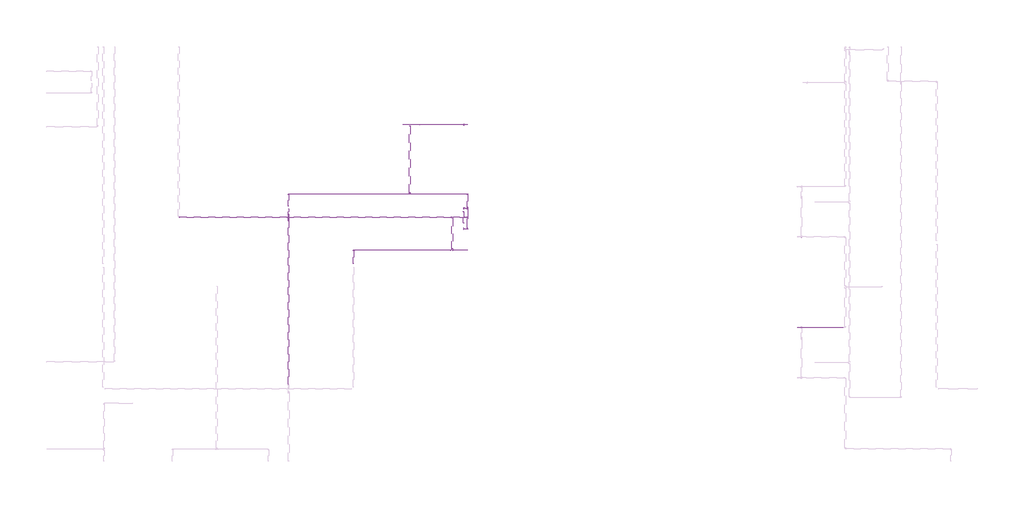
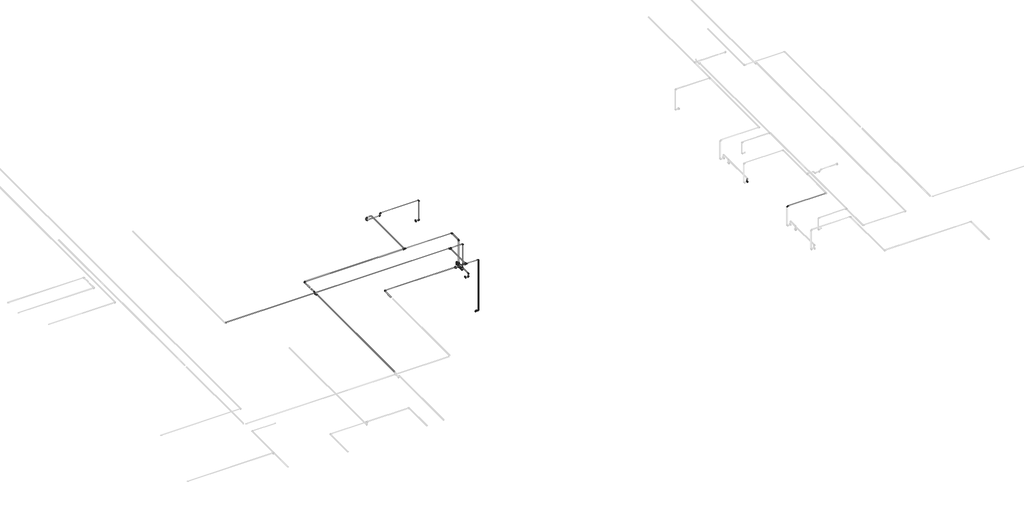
# One storey, part 4 of 40: 35 cable carrier segments, 26 cable carrier fittings, 4 electric appliances, 1 alarm.
"""IFC4 building model written with IfcOpenShell, lengths in millimetres."""

from ifc_helpers import new_model, si_unit, point, frame, frame_2d, origin, place, context, project, spatial, circle_curve, trimmed, segment, composite_curve, outline, extrude, transform, mapped, element, save
from components import alarm_4b7e8fd8, cable_carrier_fitting_69f1a801, cable_carrier_fitting_8122f9af, cable_carrier_fitting_8fd13dfc, electric_appliance_5961a143

model = new_model("IFC4")

# Units and contexts
model_context = context("Model", 3, world=origin())
ifc_project = project(units=[si_unit("LENGTHUNIT", "METRE", prefix="MILLI")], contexts=[model_context])

# Site, building, storey
site = spatial("IfcSite", under=ifc_project)
building = spatial("IfcBuilding", under=site)
storey = spatial("IfcBuildingStorey", under=building, Name="1 этаж", Elevation=0.0)

# Alarm
placement = place(None, origin())
alarm_shape = alarm_4b7e8fd8(model_context)
element("IfcAlarm", 1, ObjectType="RBZ_Оповещатель_Световой_Рубеж_ОПОП1-R3(грань) : ОПОП 1-R3 \"Выход\"", at=placement, inside=storey, context=model_context, shape_type="MappedRepresentation", body=[
    mapped(alarm_shape, transform((-25412.3240021, -5340.3629895, 2500.0), x_axis=(0.0, -1.0, 0.0), y_axis=(0.0, 0.0, 1.0), z_axis=(-1.0, 0.0, 0.0))),
])

# Cable carrier fittings
cable_carrier_fitting_shape = cable_carrier_fitting_69f1a801(model_context)
element("IfcCableCarrierFitting", 2, ObjectType="ADSK_Поворот_Минимальный размер : Неспецифицируемый", at=placement, inside=storey, context=model_context, shape_type="MappedRepresentation", body=[
    mapped(cable_carrier_fitting_shape, transform((-28274.7740021, -6192.8629895, 3187.0), x_axis=(-1.0, 0.0, 0.0), y_axis=(0.0, -1.0, 0.0), z_axis=(0.0, 0.0, 1.0))),
])
element("IfcCableCarrierFitting", 3, ObjectType="ADSK_Поворот_Минимальный размер : Неспецифицируемый", at=placement, inside=storey, context=model_context, shape_type="MappedRepresentation", body=[
    mapped(cable_carrier_fitting_shape, transform((-29965.3597128, -4737.8629895, 3187.0), x_axis=(-1.0, 0.0, 0.0), y_axis=(0.0, -1.0, 0.0), z_axis=(0.0, 0.0, 1.0))),
])
element("IfcCableCarrierFitting", 4, ObjectType="ADSK_Поворот_Минимальный размер : Неспецифицируемый", at=placement, inside=storey, context=model_context, shape_type="MappedRepresentation", body=[
    mapped(cable_carrier_fitting_shape, transform((-25315.1241965, -6192.8629895, 1500.0), x_axis=(1.0, 0.0, 0.0), y_axis=(0.0, 0.0, 1.0), z_axis=(0.0, -1.0, 0.0))),
])
element("IfcCableCarrierFitting", 5, ObjectType="ADSK_Поворот_Минимальный размер : Неспецифицируемый", at=placement, inside=storey, context=model_context, shape_type="MappedRepresentation", body=[
    mapped(cable_carrier_fitting_shape, transform((-25315.1241965, -6192.8629895, 3187.0), x_axis=(0.0, 0.0, 1.0), y_axis=(-1.0, 0.0, 0.0), z_axis=(0.0, -1.0, 0.0))),
])
element("IfcCableCarrierFitting", 6, ObjectType="ADSK_Поворот_Минимальный размер : Неспецифицируемый", at=placement, inside=storey, context=model_context, shape_type="MappedRepresentation", body=[
    mapped(cable_carrier_fitting_shape, transform((-25315.1241965, -5340.3629895, 2500.0), x_axis=(1.0, 0.0, 0.0), y_axis=(0.0, 0.0, 1.0), z_axis=(0.0, -1.0, 0.0))),
])
element("IfcCableCarrierFitting", 7, ObjectType="ADSK_Поворот_Минимальный размер : Неспецифицируемый", at=placement, inside=storey, context=model_context, shape_type="MappedRepresentation", body=[
    mapped(cable_carrier_fitting_shape, transform((-25315.1241965, -5340.3629895, 3187.0), x_axis=(0.0, 0.0, 1.0), y_axis=(-1.0, 0.0, 0.0), z_axis=(0.0, -1.0, 0.0))),
])
element("IfcCableCarrierFitting", 8, ObjectType="ADSK_Поворот_Минимальный размер : Неспецифицируемый", at=placement, inside=storey, context=model_context, shape_type="MappedRepresentation", body=[
    mapped(cable_carrier_fitting_shape, transform((-25315.1241965, -5642.8629895, 2293.0911237), x_axis=(1.0, 0.0, 0.0), y_axis=(0.0, 0.0, 1.0), z_axis=(0.0, -1.0, 0.0))),
])
element("IfcCableCarrierFitting", 9, ObjectType="ADSK_Поворот_Минимальный размер : Неспецифицируемый", at=placement, inside=storey, context=model_context, shape_type="MappedRepresentation", body=[
    mapped(cable_carrier_fitting_shape, transform((-25315.1241965, -5105.3629895, 2293.0911237), x_axis=(1.0, 0.0, 0.0), y_axis=(0.0, 0.0, 1.0), z_axis=(0.0, -1.0, 0.0))),
])
element("IfcCableCarrierFitting", 10, ObjectType="ADSK_Поворот_Минимальный размер : Неспецифицируемый", at=placement, inside=storey, context=model_context, shape_type="MappedRepresentation", body=[
    mapped(cable_carrier_fitting_shape, transform((-25315.1241965, -5105.3629895, 3187.0), x_axis=(0.0, 0.0, 1.0), y_axis=(0.0, 1.0, 0.0), z_axis=(-1.0, 0.0, 0.0))),
])
element("IfcCableCarrierFitting", 11, ObjectType="ADSK_Поворот_Минимальный размер : Неспецифицируемый", at=placement, inside=storey, context=model_context, shape_type="MappedRepresentation", body=[
    mapped(cable_carrier_fitting_shape, transform((-25315.1241965, -4737.8629895, 3187.0), x_axis=(0.0, 1.0, 0.0), y_axis=(-1.0, 0.0, 0.0), z_axis=(0.0, 0.0, 1.0))),
])
element("IfcCableCarrierFitting", 12, ObjectType="ADSK_Поворот_Минимальный размер : Неспецифицируемый", at=placement, inside=storey, context=model_context, shape_type="MappedRepresentation", body=[
    mapped(cable_carrier_fitting_shape, transform((-25315.1241965, -5642.8629895, 2400.0), x_axis=(0.0, 0.0, 1.0), y_axis=(0.0, 1.0, 0.0), z_axis=(-1.0, 0.0, 0.0))),
])
element("IfcCableCarrierFitting", 13, ObjectType="ADSK_Поворот_Минимальный размер : Неспецифицируемый", at=placement, inside=storey, context=model_context, shape_type="MappedRepresentation", body=[
    mapped(cable_carrier_fitting_shape, transform((-26540.3240021, -2935.3629895, 3187.0), x_axis=(-1.0, 0.0, 0.0), y_axis=(0.0, 0.0, -1.0), z_axis=(0.0, -1.0, 0.0))),
])
element("IfcCableCarrierFitting", 14, ObjectType="ADSK_Поворот_Минимальный размер : Неспецифицируемый", at=placement, inside=storey, context=model_context, shape_type="MappedRepresentation", body=[
    mapped(cable_carrier_fitting_shape, transform((-26972.3240021, -2935.3629895, 3184.0), x_axis=(-1.0, 0.0, 0.0), y_axis=(0.0, 0.0, -1.0), z_axis=(0.0, -1.0, 0.0))),
])
element("IfcCableCarrierFitting", 15, ObjectType="ADSK_Поворот_Минимальный размер : Неспецифицируемый", at=placement, inside=storey, context=model_context, shape_type="MappedRepresentation", body=[
    mapped(cable_carrier_fitting_shape, transform((-26972.3240021, -2935.3629895, 3100.0), x_axis=(0.0, 0.0, -1.0), y_axis=(1.0, 0.0, 0.0), z_axis=(0.0, -1.0, 0.0))),
])
element("IfcCableCarrierFitting", 16, ObjectType="ADSK_Поворот_Минимальный размер : Неспецифицируемый", at=placement, inside=storey, context=model_context, shape_type="MappedRepresentation", body=[
    mapped(cable_carrier_fitting_shape, transform((-26540.3240021, -2935.3629895, 3100.0), x_axis=(0.0, 0.0, -1.0), y_axis=(-1.0, 0.0, 0.0), z_axis=(0.0, 1.0, 0.0))),
])
element("IfcCableCarrierFitting", 17, ObjectType="ADSK_Поворот_Минимальный размер : Неспецифицируемый", at=placement, inside=storey, context=model_context, shape_type="MappedRepresentation", body=[
    mapped(cable_carrier_fitting_shape, transform((-25315.1241965, -2935.3629895, 2525.0911237), x_axis=(1.0, 0.0, 0.0), y_axis=(0.0, 0.0, 1.0), z_axis=(0.0, -1.0, 0.0))),
])
element("IfcCableCarrierFitting", 18, ObjectType="ADSK_Поворот_Минимальный размер : Неспецифицируемый", at=placement, inside=storey, context=model_context, shape_type="MappedRepresentation", body=[
    mapped(cable_carrier_fitting_shape, transform((-25315.1241965, -2935.3629895, 3187.0), x_axis=(0.0, 0.0, 1.0), y_axis=(-1.0, 0.0, 0.0), z_axis=(0.0, -1.0, 0.0))),
])
element("IfcCableCarrierFitting", 19, ObjectType="ADSK_Поворот_Минимальный размер : Неспецифицируемый", at=placement, inside=storey, context=model_context, shape_type="MappedRepresentation", body=[
    mapped(cable_carrier_fitting_shape, transform((-16746.5238077, -8200.3629895, 3187.0), x_axis=(0.0, 0.0, 1.0), y_axis=(1.0, 0.0, 0.0), z_axis=(0.0, 1.0, 0.0))),
])
cable_carrier_fitting_2_shape = cable_carrier_fitting_8122f9af(model_context)
element("IfcCableCarrierFitting", 20, ObjectType="ADSK_Поворот_Минимальный размер : Неспецифицируемый", at=placement, inside=storey, context=model_context, shape_type="MappedRepresentation", body=[
    mapped(cable_carrier_fitting_2_shape, transform((-29965.3597128, -5276.7319086, 3187.0), x_axis=(0.0, -1.0, 0.0), y_axis=(0.0, 0.0, -1.0), z_axis=(1.0, 0.0, 0.0))),
])
element("IfcCableCarrierFitting", 21, ObjectType="ADSK_Поворот_Минимальный размер : Неспецифицируемый", at=placement, inside=storey, context=model_context, shape_type="MappedRepresentation", body=[
    mapped(cable_carrier_fitting_2_shape, transform((-29965.3597128, -5313.7319086, 3150.0), x_axis=(0.0, -0.7071067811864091, -0.7071067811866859), y_axis=(0.0, -0.7071067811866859, 0.7071067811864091), z_axis=(-1.0, 0.0, 0.0))),
])
element("IfcCableCarrierFitting", 22, ObjectType="ADSK_Поворот_Минимальный размер : Неспецифицируемый", at=placement, inside=storey, context=model_context, shape_type="MappedRepresentation", body=[
    mapped(cable_carrier_fitting_2_shape, transform((-29965.3597128, -5379.7332222, 3150.0), x_axis=(0.0, -1.0, 0.0), y_axis=(0.0, 0.0, 1.0), z_axis=(-1.0, 0.0, 0.0))),
])
element("IfcCableCarrierFitting", 23, ObjectType="ADSK_Поворот_Минимальный размер : Неспецифицируемый", at=placement, inside=storey, context=model_context, shape_type="MappedRepresentation", body=[
    mapped(cable_carrier_fitting_2_shape, transform((-29965.3597128, -5416.7332222, 3187.0), x_axis=(0.0, 1.0, 0.0), y_axis=(0.0, 0.0, -1.0), z_axis=(-1.0, 0.0, 0.0))),
])
cable_carrier_fitting_3_shape = cable_carrier_fitting_8fd13dfc(model_context)
element("IfcCableCarrierFitting", 24, ObjectType="ADSK_Тройник : ПВХ", at=placement, inside=storey, context=model_context, shape_type="MappedRepresentation", body=[
    mapped(cable_carrier_fitting_3_shape, transform((-25715.303982, -5340.3629895, 3187.0), x_axis=(1.0, 0.0, 0.0), y_axis=(0.0, 1.0, 0.0), z_axis=(0.0, 0.0, 1.0))),
])
element("IfcCableCarrierFitting", 25, ObjectType="ADSK_Тройник : ПВХ", at=placement, inside=storey, context=model_context, shape_type="MappedRepresentation", body=[
    mapped(cable_carrier_fitting_3_shape, transform((-25715.303982, -6192.8629895, 3187.0), x_axis=(-1.0, 0.0, 0.0), y_axis=(0.0, -1.0, 0.0), z_axis=(0.0, 0.0, 1.0))),
])
element("IfcCableCarrierFitting", 26, ObjectType="ADSK_Тройник : ПВХ", at=placement, inside=storey, context=model_context, shape_type="MappedRepresentation", body=[
    mapped(cable_carrier_fitting_3_shape, transform((-25315.1241965, -5105.3629895, 2400.0), x_axis=(0.0, 0.0, -1.0), y_axis=(0.0, 1.0, 0.0), z_axis=(1.0, 0.0, 0.0))),
])
element("IfcCableCarrierFitting", 27, ObjectType="ADSK_Тройник : ПВХ", at=placement, inside=storey, context=model_context, shape_type="MappedRepresentation", body=[
    mapped(cable_carrier_fitting_3_shape, transform((-26812.3240021, -4737.8629895, 3187.0), x_axis=(-1.0, 0.0, 0.0), y_axis=(0.0, -1.0, 0.0), z_axis=(0.0, 0.0, 1.0))),
])

# Cable carrier segments
element("IfcCableCarrierSegment", 28, ObjectType="Гофрированная труба", at=placement, inside=storey, context=model_context, shape_type="SweptSolid", body=[
    extrude(outline(composite_curve([segment(trimmed(circle_curve(frame_2d((3187.0, -28274.7740021)), 10.0), [point((3187.0, -28264.7740021))], [point((3197.0, -28274.7740021))], False, "CARTESIAN"), True, "CONTINUOUS"), segment(trimmed(circle_curve(frame_2d((3187.0, -28274.7740021)), 10.0), [point((3197.0, -28274.7740021))], [point((3187.0, -28284.7740021))], False, "CARTESIAN"), True, "CONTINUOUS"), segment(trimmed(circle_curve(frame_2d((3187.0, -28274.7740021)), 10.0), [point((3187.0, -28284.7740021))], [point((3177.0, -28274.7740021))], False, "CARTESIAN"), True, "CONTINUOUS"), segment(trimmed(circle_curve(frame_2d((3187.0, -28274.7740021)), 10.0), [point((3177.0, -28274.7740021))], [point((3187.0, -28264.7740021))], False, "CARTESIAN"), True, "CONTINUOUS")], self_intersect=False)), frame((0.0, -6548.8629895, 0.0), z_axis=(0.0, 1.0, 0.0), x_axis=(0.0, 0.0, 1.0)), (0.0, 0.0, 1.0), 335.0),
])
element("IfcCableCarrierSegment", 29, ObjectType="Гофрированная труба", at=placement, inside=storey, context=model_context, shape_type="SweptSolid", body=[
    extrude(outline(composite_curve([segment(trimmed(circle_curve(frame_2d((-5340.3629895, 3187.0)), 10.0), [point((-5330.3629895, 3187.0))], [point((-5340.3629895, 3177.0))], False, "CARTESIAN"), True, "CONTINUOUS"), segment(trimmed(circle_curve(frame_2d((-5340.3629895, 3187.0)), 10.0), [point((-5340.3629895, 3177.0))], [point((-5350.3629895, 3187.0))], False, "CARTESIAN"), True, "CONTINUOUS"), segment(trimmed(circle_curve(frame_2d((-5340.3629895, 3187.0)), 10.0), [point((-5350.3629895, 3187.0))], [point((-5340.3629895, 3197.0))], False, "CARTESIAN"), True, "CONTINUOUS"), segment(trimmed(circle_curve(frame_2d((-5340.3629895, 3187.0)), 10.0), [point((-5340.3629895, 3197.0))], [point((-5330.3629895, 3187.0))], False, "CARTESIAN"), True, "CONTINUOUS")], self_intersect=False)), frame((-32791.3240021, 0.0, 0.0), z_axis=(1.0, 0.0, 0.0), x_axis=(0.0, 1.0, 0.0)), (0.0, 0.0, 1.0), 7046.0200201),
])
element("IfcCableCarrierSegment", 30, ObjectType="Гофрированная труба", at=placement, inside=storey, context=model_context, shape_type="SweptSolid", body=[
    extrude(outline(composite_curve([segment(trimmed(circle_curve(frame_2d((3187.0, -25715.303982)), 10.0), [point((3187.0, -25705.303982))], [point((3197.0, -25715.303982))], False, "CARTESIAN"), True, "CONTINUOUS"), segment(trimmed(circle_curve(frame_2d((3187.0, -25715.303982)), 10.0), [point((3197.0, -25715.303982))], [point((3187.0, -25725.303982))], False, "CARTESIAN"), True, "CONTINUOUS"), segment(trimmed(circle_curve(frame_2d((3187.0, -25715.303982)), 10.0), [point((3187.0, -25725.303982))], [point((3177.0, -25715.303982))], False, "CARTESIAN"), True, "CONTINUOUS"), segment(trimmed(circle_curve(frame_2d((3187.0, -25715.303982)), 10.0), [point((3177.0, -25715.303982))], [point((3187.0, -25705.303982))], False, "CARTESIAN"), True, "CONTINUOUS")], self_intersect=False)), frame((0.0, -6162.8629895, 0.0), z_axis=(0.0, 1.0, 0.0), x_axis=(0.0, 0.0, 1.0)), (0.0, 0.0, 1.0), 792.5),
])
element("IfcCableCarrierSegment", 31, ObjectType="Гофрированная труба", at=placement, inside=storey, context=model_context, shape_type="SweptSolid", body=[
    extrude(outline(composite_curve([segment(trimmed(circle_curve(frame_2d((-6192.8629895, 3187.0)), 10.0), [point((-6202.8629895, 3187.0))], [point((-6192.8629895, 3197.0))], False, "CARTESIAN"), True, "CONTINUOUS"), segment(trimmed(circle_curve(frame_2d((-6192.8629895, 3187.0)), 10.0), [point((-6192.8629895, 3197.0))], [point((-6182.8629895, 3187.0))], False, "CARTESIAN"), True, "CONTINUOUS"), segment(trimmed(circle_curve(frame_2d((-6192.8629895, 3187.0)), 10.0), [point((-6182.8629895, 3187.0))], [point((-6192.8629895, 3177.0))], False, "CARTESIAN"), True, "CONTINUOUS"), segment(trimmed(circle_curve(frame_2d((-6192.8629895, 3187.0)), 10.0), [point((-6192.8629895, 3177.0))], [point((-6202.8629895, 3187.0))], False, "CARTESIAN"), True, "CONTINUOUS")], self_intersect=False)), frame((-28253.7740021, 0.0, 0.0), z_axis=(1.0, 0.0, 0.0), x_axis=(0.0, 1.0, 0.0)), (0.0, 0.0, 1.0), 2508.4700201),
])
element("IfcCableCarrierSegment", 32, ObjectType="Гофрированная труба", at=placement, inside=storey, context=model_context, shape_type="SweptSolid", body=[
    extrude(outline(composite_curve([segment(trimmed(circle_curve(frame_2d((3187.0, -29965.3597128)), 10.0), [point((3187.0, -29955.3597128))], [point((3197.0, -29965.3597128))], False, "CARTESIAN"), True, "CONTINUOUS"), segment(trimmed(circle_curve(frame_2d((3187.0, -29965.3597128)), 10.0), [point((3197.0, -29965.3597128))], [point((3187.0, -29975.3597128))], False, "CARTESIAN"), True, "CONTINUOUS"), segment(trimmed(circle_curve(frame_2d((3187.0, -29965.3597128)), 10.0), [point((3187.0, -29975.3597128))], [point((3177.0, -29965.3597128))], False, "CARTESIAN"), True, "CONTINUOUS"), segment(trimmed(circle_curve(frame_2d((3187.0, -29965.3597128)), 10.0), [point((3177.0, -29965.3597128))], [point((3187.0, -29955.3597128))], False, "CARTESIAN"), True, "CONTINUOUS")], self_intersect=False)), frame((0.0, -5050.3629895, 0.0), z_axis=(0.0, 1.0, 0.0), x_axis=(0.0, 0.0, 1.0)), (0.0, 0.0, 1.0), 291.5),
])
element("IfcCableCarrierSegment", 33, ObjectType="Гофрированная труба", at=placement, inside=storey, context=model_context, shape_type="SweptSolid", body=[
    extrude(outline(composite_curve([segment(trimmed(circle_curve(frame_2d((3150.0, -29965.3597128)), 10.0), [point((3150.0, -29975.3597128))], [point((3140.0, -29965.3597128))], False, "CARTESIAN"), True, "CONTINUOUS"), segment(trimmed(circle_curve(frame_2d((3150.0, -29965.3597128)), 10.0), [point((3140.0, -29965.3597128))], [point((3150.0, -29955.3597128))], False, "CARTESIAN"), True, "CONTINUOUS"), segment(trimmed(circle_curve(frame_2d((3150.0, -29965.3597128)), 10.0), [point((3150.0, -29955.3597128))], [point((3160.0, -29965.3597128))], False, "CARTESIAN"), True, "CONTINUOUS"), segment(trimmed(circle_curve(frame_2d((3150.0, -29965.3597128)), 10.0), [point((3160.0, -29965.3597128))], [point((3150.0, -29975.3597128))], False, "CARTESIAN"), True, "CONTINUOUS")], self_intersect=False)), frame((0.0, -5370.4489509, 0.0), z_axis=(0.0, 1.0, 0.0), x_axis=(0.0, 0.0, 1.0)), (0.0, 0.0, 1.0), 47.4327711),
])
element("IfcCableCarrierSegment", 34, ObjectType="Гофрированная труба", at=placement, inside=storey, context=model_context, shape_type="SweptSolid", body=[
    extrude(outline(composite_curve([segment(trimmed(circle_curve(frame_2d((3187.0, -29965.3597128)), 10.0), [point((3187.0, -29975.3597128))], [point((3177.0, -29965.3597128))], False, "CARTESIAN"), True, "CONTINUOUS"), segment(trimmed(circle_curve(frame_2d((3187.0, -29965.3597128)), 10.0), [point((3177.0, -29965.3597128))], [point((3187.0, -29955.3597128))], False, "CARTESIAN"), True, "CONTINUOUS"), segment(trimmed(circle_curve(frame_2d((3187.0, -29965.3597128)), 10.0), [point((3187.0, -29955.3597128))], [point((3197.0, -29965.3597128))], False, "CARTESIAN"), True, "CONTINUOUS"), segment(trimmed(circle_curve(frame_2d((3187.0, -29965.3597128)), 10.0), [point((3197.0, -29965.3597128))], [point((3187.0, -29975.3597128))], False, "CARTESIAN"), True, "CONTINUOUS")], self_intersect=False)), frame((0.0, -5267.4476374, 0.0), z_axis=(0.0, 1.0, 0.0), x_axis=(0.0, 0.0, 1.0)), (0.0, 0.0, 1.0), 152.1228651),
])
element("IfcCableCarrierSegment", 35, ObjectType="Гофрированная труба", at=placement, inside=storey, context=model_context, shape_type="SweptSolid", body=[
    extrude(outline(composite_curve([segment(trimmed(circle_curve(frame_2d((0.0, -10.0000001)), 10.0), [point((-10.0, -10.0000001))], [point((0.0, 0.0))], False, "CARTESIAN"), True, "CONTINUOUS"), segment(trimmed(circle_curve(frame_2d((0.0, -10.0000001)), 10.0), [point((0.0, 0.0))], [point((10.0, -10.0000001))], False, "CARTESIAN"), True, "CONTINUOUS"), segment(trimmed(circle_curve(frame_2d((0.0, -10.0000001)), 10.0), [point((10.0, -10.0000001))], [point((0.0, -20.0000001))], False, "CARTESIAN"), True, "CONTINUOUS"), segment(trimmed(circle_curve(frame_2d((0.0, -10.0000001)), 10.0), [point((0.0, -20.0000001))], [point((-10.0, -10.0000001))], False, "CARTESIAN"), True, "CONTINUOUS")], self_intersect=False)), frame((-29965.3597128, -5300.0958696, 3149.4939033), z_axis=(0.0, 0.7071067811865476, 0.7071067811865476), x_axis=(1.0, 0.0, 0.0)), (0.0, 0.0, 1.0), 33.7573593),
])
element("IfcCableCarrierSegment", 36, ObjectType="Гофрированная труба", at=placement, inside=storey, context=model_context, shape_type="SweptSolid", body=[
    extrude(outline(composite_curve([segment(trimmed(circle_curve(frame_2d((3187.0, -29965.3597128)), 10.0), [point((3187.0, -29975.3597128))], [point((3177.0, -29965.3597128))], False, "CARTESIAN"), True, "CONTINUOUS"), segment(trimmed(circle_curve(frame_2d((3187.0, -29965.3597128)), 10.0), [point((3177.0, -29965.3597128))], [point((3187.0, -29955.3597128))], False, "CARTESIAN"), True, "CONTINUOUS"), segment(trimmed(circle_curve(frame_2d((3187.0, -29965.3597128)), 10.0), [point((3187.0, -29955.3597128))], [point((3197.0, -29965.3597128))], False, "CARTESIAN"), True, "CONTINUOUS"), segment(trimmed(circle_curve(frame_2d((3187.0, -29965.3597128)), 10.0), [point((3197.0, -29965.3597128))], [point((3187.0, -29975.3597128))], False, "CARTESIAN"), True, "CONTINUOUS")], self_intersect=False)), frame((0.0, -9673.8325029, 0.0), z_axis=(0.0, 1.0, 0.0), x_axis=(0.0, 0.0, 1.0)), (0.0, 0.0, 1.0), 4247.8150095),
])
element("IfcCableCarrierSegment", 37, ObjectType="Гофрированная труба", at=placement, inside=storey, context=model_context, shape_type="SweptSolid", body=[
    extrude(outline(composite_curve([segment(trimmed(circle_curve(frame_2d((0.0, 10.0000001)), 10.0), [point((-10.0, 10.0000001))], [point((0.0, 20.0000001))], False, "CARTESIAN"), True, "CONTINUOUS"), segment(trimmed(circle_curve(frame_2d((0.0, 10.0000001)), 10.0), [point((0.0, 20.0000001))], [point((10.0, 10.0000001))], False, "CARTESIAN"), True, "CONTINUOUS"), segment(trimmed(circle_curve(frame_2d((0.0, 10.0000001)), 10.0), [point((10.0, 10.0000001))], [point((0.0, 0.0))], False, "CARTESIAN"), True, "CONTINUOUS"), segment(trimmed(circle_curve(frame_2d((0.0, 10.0000001)), 10.0), [point((0.0, 0.0))], [point((-10.0, 10.0000001))], False, "CARTESIAN"), True, "CONTINUOUS")], self_intersect=False)), frame((-29965.3597128, -5393.3692612, 3149.4939033), z_axis=(0.0, -0.707106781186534, 0.7071067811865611), x_axis=(1.0, 0.0, 0.0)), (0.0, 0.0, 1.0), 33.7573593),
])
element("IfcCableCarrierSegment", 38, ObjectType="Гофрированная труба", at=placement, inside=storey, context=model_context, shape_type="SweptSolid", body=[
    extrude(outline(composite_curve([segment(trimmed(circle_curve(frame_2d((-4737.8629895, 3187.0)), 10.0), [point((-4747.8629895, 3187.0))], [point((-4737.8629895, 3197.0))], False, "CARTESIAN"), True, "CONTINUOUS"), segment(trimmed(circle_curve(frame_2d((-4737.8629895, 3187.0)), 10.0), [point((-4737.8629895, 3197.0))], [point((-4727.8629895, 3187.0))], False, "CARTESIAN"), True, "CONTINUOUS"), segment(trimmed(circle_curve(frame_2d((-4737.8629895, 3187.0)), 10.0), [point((-4727.8629895, 3187.0))], [point((-4737.8629895, 3177.0))], False, "CARTESIAN"), True, "CONTINUOUS"), segment(trimmed(circle_curve(frame_2d((-4737.8629895, 3187.0)), 10.0), [point((-4737.8629895, 3177.0))], [point((-4747.8629895, 3187.0))], False, "CARTESIAN"), True, "CONTINUOUS")], self_intersect=False)), frame((-26782.3240021, 0.0, 0.0), z_axis=(1.0, 0.0, 0.0), x_axis=(0.0, 1.0, 0.0)), (0.0, 0.0, 1.0), 1446.1998056),
])
element("IfcCableCarrierSegment", 39, ObjectType="Гофрированная труба", at=placement, inside=storey, context=model_context, shape_type="SweptSolid", body=[
    extrude(outline(composite_curve([segment(trimmed(circle_curve(frame_2d((-6192.8629895, 3187.0)), 10.0), [point((-6202.8629895, 3187.0))], [point((-6192.8629895, 3197.0))], False, "CARTESIAN"), True, "CONTINUOUS"), segment(trimmed(circle_curve(frame_2d((-6192.8629895, 3187.0)), 10.0), [point((-6192.8629895, 3197.0))], [point((-6182.8629895, 3187.0))], False, "CARTESIAN"), True, "CONTINUOUS"), segment(trimmed(circle_curve(frame_2d((-6192.8629895, 3187.0)), 10.0), [point((-6182.8629895, 3187.0))], [point((-6192.8629895, 3177.0))], False, "CARTESIAN"), True, "CONTINUOUS"), segment(trimmed(circle_curve(frame_2d((-6192.8629895, 3187.0)), 10.0), [point((-6192.8629895, 3177.0))], [point((-6202.8629895, 3187.0))], False, "CARTESIAN"), True, "CONTINUOUS")], self_intersect=False)), frame((-25685.303982, 0.0, 0.0), z_axis=(1.0, 0.0, 0.0), x_axis=(0.0, 1.0, 0.0)), (0.0, 0.0, 1.0), 349.1797855),
])
element("IfcCableCarrierSegment", 40, ObjectType="Гофрированная труба", at=placement, inside=storey, context=model_context, shape_type="SweptSolid", body=[
    extrude(outline(composite_curve([segment(trimmed(circle_curve(frame_2d((-6192.8629895, 1500.0)), 10.0), [point((-6202.8629895, 1500.0))], [point((-6192.8629895, 1510.0))], False, "CARTESIAN"), True, "CONTINUOUS"), segment(trimmed(circle_curve(frame_2d((-6192.8629895, 1500.0)), 10.0), [point((-6192.8629895, 1510.0))], [point((-6182.8629895, 1500.0))], False, "CARTESIAN"), True, "CONTINUOUS"), segment(trimmed(circle_curve(frame_2d((-6192.8629895, 1500.0)), 10.0), [point((-6182.8629895, 1500.0))], [point((-6192.8629895, 1490.0))], False, "CARTESIAN"), True, "CONTINUOUS"), segment(trimmed(circle_curve(frame_2d((-6192.8629895, 1500.0)), 10.0), [point((-6192.8629895, 1490.0))], [point((-6202.8629895, 1500.0))], False, "CARTESIAN"), True, "CONTINUOUS")], self_intersect=False)), frame((-25412.3240021, 0.0, 0.0), z_axis=(1.0, 0.0, 0.0), x_axis=(0.0, 1.0, 0.0)), (0.0, 0.0, 1.0), 76.1998056),
])
element("IfcCableCarrierSegment", 41, ObjectType="Гофрированная труба", at=placement, inside=storey, context=model_context, shape_type="SweptSolid", body=[
    extrude(outline(composite_curve([segment(trimmed(circle_curve(frame_2d((-25315.1241965, -6192.8629895)), 10.0), [point((-25325.1241965, -6192.8629895))], [point((-25315.1241965, -6182.8629895))], False, "CARTESIAN"), True, "CONTINUOUS"), segment(trimmed(circle_curve(frame_2d((-25315.1241965, -6192.8629895)), 10.0), [point((-25315.1241965, -6182.8629895))], [point((-25305.1241965, -6192.8629895))], False, "CARTESIAN"), True, "CONTINUOUS"), segment(trimmed(circle_curve(frame_2d((-25315.1241965, -6192.8629895)), 10.0), [point((-25305.1241965, -6192.8629895))], [point((-25315.1241965, -6202.8629895))], False, "CARTESIAN"), True, "CONTINUOUS"), segment(trimmed(circle_curve(frame_2d((-25315.1241965, -6192.8629895)), 10.0), [point((-25315.1241965, -6202.8629895))], [point((-25325.1241965, -6192.8629895))], False, "CARTESIAN"), True, "CONTINUOUS")], self_intersect=False)), frame((0.0, 0.0, 1521.0), z_axis=(0.0, 0.0, 1.0), x_axis=(1.0, 0.0, 0.0)), (0.0, 0.0, 1.0), 1645.0),
])
element("IfcCableCarrierSegment", 42, ObjectType="Гофрированная труба", at=placement, inside=storey, context=model_context, shape_type="SweptSolid", body=[
    extrude(outline(composite_curve([segment(trimmed(circle_curve(frame_2d((-5340.3629895, 3187.0)), 10.0), [point((-5350.3629895, 3187.0))], [point((-5340.3629895, 3197.0))], False, "CARTESIAN"), True, "CONTINUOUS"), segment(trimmed(circle_curve(frame_2d((-5340.3629895, 3187.0)), 10.0), [point((-5340.3629895, 3197.0))], [point((-5330.3629895, 3187.0))], False, "CARTESIAN"), True, "CONTINUOUS"), segment(trimmed(circle_curve(frame_2d((-5340.3629895, 3187.0)), 10.0), [point((-5330.3629895, 3187.0))], [point((-5340.3629895, 3177.0))], False, "CARTESIAN"), True, "CONTINUOUS"), segment(trimmed(circle_curve(frame_2d((-5340.3629895, 3187.0)), 10.0), [point((-5340.3629895, 3177.0))], [point((-5350.3629895, 3187.0))], False, "CARTESIAN"), True, "CONTINUOUS")], self_intersect=False)), frame((-25685.303982, 0.0, 0.0), z_axis=(1.0, 0.0, 0.0), x_axis=(0.0, 1.0, 0.0)), (0.0, 0.0, 1.0), 349.1797855),
])
element("IfcCableCarrierSegment", 43, ObjectType="Гофрированная труба", at=placement, inside=storey, context=model_context, shape_type="SweptSolid", body=[
    extrude(outline(composite_curve([segment(trimmed(circle_curve(frame_2d((-5340.3629895, 2500.0)), 10.0), [point((-5350.3629895, 2500.0))], [point((-5340.3629895, 2510.0))], False, "CARTESIAN"), True, "CONTINUOUS"), segment(trimmed(circle_curve(frame_2d((-5340.3629895, 2500.0)), 10.0), [point((-5340.3629895, 2510.0))], [point((-5330.3629895, 2500.0))], False, "CARTESIAN"), True, "CONTINUOUS"), segment(trimmed(circle_curve(frame_2d((-5340.3629895, 2500.0)), 10.0), [point((-5330.3629895, 2500.0))], [point((-5340.3629895, 2490.0))], False, "CARTESIAN"), True, "CONTINUOUS"), segment(trimmed(circle_curve(frame_2d((-5340.3629895, 2500.0)), 10.0), [point((-5340.3629895, 2490.0))], [point((-5350.3629895, 2500.0))], False, "CARTESIAN"), True, "CONTINUOUS")], self_intersect=False)), frame((-25412.3240021, 0.0, 0.0), z_axis=(1.0, 0.0, 0.0), x_axis=(0.0, 1.0, 0.0)), (0.0, 0.0, 1.0), 76.1998056),
])
element("IfcCableCarrierSegment", 44, ObjectType="Гофрированная труба", at=placement, inside=storey, context=model_context, shape_type="SweptSolid", body=[
    extrude(outline(composite_curve([segment(trimmed(circle_curve(frame_2d((-25315.1241965, -5340.3629895)), 10.0), [point((-25325.1241965, -5340.3629895))], [point((-25315.1241965, -5330.3629895))], False, "CARTESIAN"), True, "CONTINUOUS"), segment(trimmed(circle_curve(frame_2d((-25315.1241965, -5340.3629895)), 10.0), [point((-25315.1241965, -5330.3629895))], [point((-25305.1241965, -5340.3629895))], False, "CARTESIAN"), True, "CONTINUOUS"), segment(trimmed(circle_curve(frame_2d((-25315.1241965, -5340.3629895)), 10.0), [point((-25305.1241965, -5340.3629895))], [point((-25315.1241965, -5350.3629895))], False, "CARTESIAN"), True, "CONTINUOUS"), segment(trimmed(circle_curve(frame_2d((-25315.1241965, -5340.3629895)), 10.0), [point((-25315.1241965, -5350.3629895))], [point((-25325.1241965, -5340.3629895))], False, "CARTESIAN"), True, "CONTINUOUS")], self_intersect=False)), frame((0.0, 0.0, 2521.0), z_axis=(0.0, 0.0, 1.0), x_axis=(1.0, 0.0, 0.0)), (0.0, 0.0, 1.0), 645.0),
])
element("IfcCableCarrierSegment", 45, ObjectType="Гофрированная труба", at=placement, inside=storey, context=model_context, shape_type="SweptSolid", body=[
    extrude(outline(composite_curve([segment(trimmed(circle_curve(frame_2d((-5642.8629895, 2293.0911237)), 10.0), [point((-5652.8629895, 2293.0911237))], [point((-5642.8629895, 2303.0911237))], False, "CARTESIAN"), True, "CONTINUOUS"), segment(trimmed(circle_curve(frame_2d((-5642.8629895, 2293.0911237)), 10.0), [point((-5642.8629895, 2303.0911237))], [point((-5632.8629895, 2293.0911237))], False, "CARTESIAN"), True, "CONTINUOUS"), segment(trimmed(circle_curve(frame_2d((-5642.8629895, 2293.0911237)), 10.0), [point((-5632.8629895, 2293.0911237))], [point((-5642.8629895, 2283.0911237))], False, "CARTESIAN"), True, "CONTINUOUS"), segment(trimmed(circle_curve(frame_2d((-5642.8629895, 2293.0911237)), 10.0), [point((-5642.8629895, 2283.0911237))], [point((-5652.8629895, 2293.0911237))], False, "CARTESIAN"), True, "CONTINUOUS")], self_intersect=False)), frame((-25412.3240021, 0.0, 0.0), z_axis=(1.0, 0.0, 0.0), x_axis=(0.0, 1.0, 0.0)), (0.0, 0.0, 1.0), 76.1998056),
])
element("IfcCableCarrierSegment", 46, ObjectType="Гофрированная труба", at=placement, inside=storey, context=model_context, shape_type="SweptSolid", body=[
    extrude(outline(composite_curve([segment(trimmed(circle_curve(frame_2d((-25315.1241965, -5642.8629895)), 10.0), [point((-25325.1241965, -5642.8629895))], [point((-25315.1241965, -5632.8629895))], False, "CARTESIAN"), True, "CONTINUOUS"), segment(trimmed(circle_curve(frame_2d((-25315.1241965, -5642.8629895)), 10.0), [point((-25315.1241965, -5632.8629895))], [point((-25305.1241965, -5642.8629895))], False, "CARTESIAN"), True, "CONTINUOUS"), segment(trimmed(circle_curve(frame_2d((-25315.1241965, -5642.8629895)), 10.0), [point((-25305.1241965, -5642.8629895))], [point((-25315.1241965, -5652.8629895))], False, "CARTESIAN"), True, "CONTINUOUS"), segment(trimmed(circle_curve(frame_2d((-25315.1241965, -5642.8629895)), 10.0), [point((-25315.1241965, -5652.8629895))], [point((-25325.1241965, -5642.8629895))], False, "CARTESIAN"), True, "CONTINUOUS")], self_intersect=False)), frame((0.0, 0.0, 2314.0911237), z_axis=(0.0, 0.0, 1.0), x_axis=(1.0, 0.0, 0.0)), (0.0, 0.0, 1.0), 64.9088763),
])
element("IfcCableCarrierSegment", 47, ObjectType="Гофрированная труба", at=placement, inside=storey, context=model_context, shape_type="SweptSolid", body=[
    extrude(outline(composite_curve([segment(trimmed(circle_curve(frame_2d((2400.0, -25315.1241965)), 10.0), [point((2400.0, -25305.1241965))], [point((2410.0, -25315.1241965))], False, "CARTESIAN"), True, "CONTINUOUS"), segment(trimmed(circle_curve(frame_2d((2400.0, -25315.1241965)), 10.0), [point((2410.0, -25315.1241965))], [point((2400.0, -25325.1241965))], False, "CARTESIAN"), True, "CONTINUOUS"), segment(trimmed(circle_curve(frame_2d((2400.0, -25315.1241965)), 10.0), [point((2400.0, -25325.1241965))], [point((2390.0, -25315.1241965))], False, "CARTESIAN"), True, "CONTINUOUS"), segment(trimmed(circle_curve(frame_2d((2400.0, -25315.1241965)), 10.0), [point((2390.0, -25315.1241965))], [point((2400.0, -25305.1241965))], False, "CARTESIAN"), True, "CONTINUOUS")], self_intersect=False)), frame((0.0, -5621.8629895, 0.0), z_axis=(0.0, 1.0, 0.0), x_axis=(0.0, 0.0, 1.0)), (0.0, 0.0, 1.0), 486.5),
])
element("IfcCableCarrierSegment", 48, ObjectType="Гофрированная труба", at=placement, inside=storey, context=model_context, shape_type="SweptSolid", body=[
    extrude(outline(composite_curve([segment(trimmed(circle_curve(frame_2d((-5105.3629895, 2293.0911237)), 10.0), [point((-5115.3629895, 2293.0911237))], [point((-5105.3629895, 2303.0911237))], False, "CARTESIAN"), True, "CONTINUOUS"), segment(trimmed(circle_curve(frame_2d((-5105.3629895, 2293.0911237)), 10.0), [point((-5105.3629895, 2303.0911237))], [point((-5095.3629895, 2293.0911237))], False, "CARTESIAN"), True, "CONTINUOUS"), segment(trimmed(circle_curve(frame_2d((-5105.3629895, 2293.0911237)), 10.0), [point((-5095.3629895, 2293.0911237))], [point((-5105.3629895, 2283.0911237))], False, "CARTESIAN"), True, "CONTINUOUS"), segment(trimmed(circle_curve(frame_2d((-5105.3629895, 2293.0911237)), 10.0), [point((-5105.3629895, 2283.0911237))], [point((-5115.3629895, 2293.0911237))], False, "CARTESIAN"), True, "CONTINUOUS")], self_intersect=False)), frame((-25412.3240021, 0.0, 0.0), z_axis=(1.0, 0.0, 0.0), x_axis=(0.0, 1.0, 0.0)), (0.0, 0.0, 1.0), 76.1998056),
])
element("IfcCableCarrierSegment", 49, ObjectType="Гофрированная труба", at=placement, inside=storey, context=model_context, shape_type="SweptSolid", body=[
    extrude(outline(composite_curve([segment(trimmed(circle_curve(frame_2d((-25315.1241965, -5105.3629895)), 10.0), [point((-25325.1241965, -5105.3629895))], [point((-25315.1241965, -5095.3629895))], False, "CARTESIAN"), True, "CONTINUOUS"), segment(trimmed(circle_curve(frame_2d((-25315.1241965, -5105.3629895)), 10.0), [point((-25315.1241965, -5095.3629895))], [point((-25305.1241965, -5105.3629895))], False, "CARTESIAN"), True, "CONTINUOUS"), segment(trimmed(circle_curve(frame_2d((-25315.1241965, -5105.3629895)), 10.0), [point((-25305.1241965, -5105.3629895))], [point((-25315.1241965, -5115.3629895))], False, "CARTESIAN"), True, "CONTINUOUS"), segment(trimmed(circle_curve(frame_2d((-25315.1241965, -5105.3629895)), 10.0), [point((-25315.1241965, -5115.3629895))], [point((-25325.1241965, -5105.3629895))], False, "CARTESIAN"), True, "CONTINUOUS")], self_intersect=False)), frame((0.0, 0.0, 2430.0), z_axis=(0.0, 0.0, 1.0), x_axis=(1.0, 0.0, 0.0)), (0.0, 0.0, 1.0), 736.0),
])
element("IfcCableCarrierSegment", 50, ObjectType="Гофрированная труба", at=placement, inside=storey, context=model_context, shape_type="SweptSolid", body=[
    extrude(outline(composite_curve([segment(trimmed(circle_curve(frame_2d((3187.0, -25315.1241965)), 10.0), [point((3187.0, -25305.1241965))], [point((3197.0, -25315.1241965))], False, "CARTESIAN"), True, "CONTINUOUS"), segment(trimmed(circle_curve(frame_2d((3187.0, -25315.1241965)), 10.0), [point((3197.0, -25315.1241965))], [point((3187.0, -25325.1241965))], False, "CARTESIAN"), True, "CONTINUOUS"), segment(trimmed(circle_curve(frame_2d((3187.0, -25315.1241965)), 10.0), [point((3187.0, -25325.1241965))], [point((3177.0, -25315.1241965))], False, "CARTESIAN"), True, "CONTINUOUS"), segment(trimmed(circle_curve(frame_2d((3187.0, -25315.1241965)), 10.0), [point((3177.0, -25315.1241965))], [point((3187.0, -25305.1241965))], False, "CARTESIAN"), True, "CONTINUOUS")], self_intersect=False)), frame((0.0, -5084.3629895, 0.0), z_axis=(0.0, 1.0, 0.0), x_axis=(0.0, 0.0, 1.0)), (0.0, 0.0, 1.0), 325.5),
])
element("IfcCableCarrierSegment", 51, ObjectType="Гофрированная труба", at=placement, inside=storey, context=model_context, shape_type="SweptSolid", body=[
    extrude(outline(composite_curve([segment(trimmed(circle_curve(frame_2d((-25315.1241965, -5105.3629895)), 10.0), [point((-25325.1241965, -5105.3629895))], [point((-25315.1241965, -5095.3629895))], False, "CARTESIAN"), True, "CONTINUOUS"), segment(trimmed(circle_curve(frame_2d((-25315.1241965, -5105.3629895)), 10.0), [point((-25315.1241965, -5095.3629895))], [point((-25305.1241965, -5105.3629895))], False, "CARTESIAN"), True, "CONTINUOUS"), segment(trimmed(circle_curve(frame_2d((-25315.1241965, -5105.3629895)), 10.0), [point((-25305.1241965, -5105.3629895))], [point((-25315.1241965, -5115.3629895))], False, "CARTESIAN"), True, "CONTINUOUS"), segment(trimmed(circle_curve(frame_2d((-25315.1241965, -5105.3629895)), 10.0), [point((-25315.1241965, -5115.3629895))], [point((-25325.1241965, -5105.3629895))], False, "CARTESIAN"), True, "CONTINUOUS")], self_intersect=False)), frame((0.0, 0.0, 2314.0911237), z_axis=(0.0, 0.0, 1.0), x_axis=(1.0, 0.0, 0.0)), (0.0, 0.0, 1.0), 55.9088763),
])
element("IfcCableCarrierSegment", 52, ObjectType="Гофрированная труба", at=placement, inside=storey, context=model_context, shape_type="SweptSolid", body=[
    extrude(outline(composite_curve([segment(trimmed(circle_curve(frame_2d((-2935.3629895, 3184.0)), 10.0), [point((-2925.3629895, 3184.0))], [point((-2935.3629895, 3174.0))], False, "CARTESIAN"), True, "CONTINUOUS"), segment(trimmed(circle_curve(frame_2d((-2935.3629895, 3184.0)), 10.0), [point((-2935.3629895, 3174.0))], [point((-2945.3629895, 3184.0))], False, "CARTESIAN"), True, "CONTINUOUS"), segment(trimmed(circle_curve(frame_2d((-2935.3629895, 3184.0)), 10.0), [point((-2945.3629895, 3184.0))], [point((-2935.3629895, 3194.0))], False, "CARTESIAN"), True, "CONTINUOUS"), segment(trimmed(circle_curve(frame_2d((-2935.3629895, 3184.0)), 10.0), [point((-2935.3629895, 3194.0))], [point((-2925.3629895, 3184.0))], False, "CARTESIAN"), True, "CONTINUOUS")], self_intersect=False)), frame((-26951.3240021, 0.0, 0.0), z_axis=(1.0, 0.0, 0.0), x_axis=(0.0, 1.0, 0.0)), (0.0, 0.0, 1.0), 129.0),
])
element("IfcCableCarrierSegment", 53, ObjectType="Гофрированная труба", at=placement, inside=storey, context=model_context, shape_type="SweptSolid", body=[
    extrude(outline(composite_curve([segment(trimmed(circle_curve(frame_2d((-2935.3629895, 3100.0)), 10.0), [point((-2945.3629895, 3100.0))], [point((-2935.3629895, 3110.0))], False, "CARTESIAN"), True, "CONTINUOUS"), segment(trimmed(circle_curve(frame_2d((-2935.3629895, 3100.0)), 10.0), [point((-2935.3629895, 3110.0))], [point((-2925.3629895, 3100.0))], False, "CARTESIAN"), True, "CONTINUOUS"), segment(trimmed(circle_curve(frame_2d((-2935.3629895, 3100.0)), 10.0), [point((-2925.3629895, 3100.0))], [point((-2935.3629895, 3090.0))], False, "CARTESIAN"), True, "CONTINUOUS"), segment(trimmed(circle_curve(frame_2d((-2935.3629895, 3100.0)), 10.0), [point((-2935.3629895, 3090.0))], [point((-2945.3629895, 3100.0))], False, "CARTESIAN"), True, "CONTINUOUS")], self_intersect=False)), frame((-26951.3240021, 0.0, 0.0), z_axis=(1.0, 0.0, 0.0), x_axis=(0.0, 1.0, 0.0)), (0.0, 0.0, 1.0), 390.0),
])
element("IfcCableCarrierSegment", 54, ObjectType="Гофрированная труба", at=placement, inside=storey, context=model_context, shape_type="SweptSolid", body=[
    extrude(outline(composite_curve([segment(trimmed(circle_curve(frame_2d((-26540.3240021, -2935.3629895)), 10.0), [point((-26530.3240021, -2935.3629895))], [point((-26540.3240021, -2945.3629895))], False, "CARTESIAN"), True, "CONTINUOUS"), segment(trimmed(circle_curve(frame_2d((-26540.3240021, -2935.3629895)), 10.0), [point((-26540.3240021, -2945.3629895))], [point((-26550.3240021, -2935.3629895))], False, "CARTESIAN"), True, "CONTINUOUS"), segment(trimmed(circle_curve(frame_2d((-26540.3240021, -2935.3629895)), 10.0), [point((-26550.3240021, -2935.3629895))], [point((-26540.3240021, -2925.3629895))], False, "CARTESIAN"), True, "CONTINUOUS"), segment(trimmed(circle_curve(frame_2d((-26540.3240021, -2935.3629895)), 10.0), [point((-26540.3240021, -2925.3629895))], [point((-26530.3240021, -2935.3629895))], False, "CARTESIAN"), True, "CONTINUOUS")], self_intersect=False)), frame((0.0, 0.0, 3121.0), z_axis=(0.0, 0.0, 1.0), x_axis=(1.0, 0.0, 0.0)), (0.0, 0.0, 1.0), 45.0),
])
element("IfcCableCarrierSegment", 55, ObjectType="Гофрированная труба", at=placement, inside=storey, context=model_context, shape_type="SweptSolid", body=[
    extrude(outline(composite_curve([segment(trimmed(circle_curve(frame_2d((-26972.3240021, -2935.3629895)), 10.0), [point((-26962.3240021, -2935.3629895))], [point((-26972.3240021, -2945.3629895))], False, "CARTESIAN"), True, "CONTINUOUS"), segment(trimmed(circle_curve(frame_2d((-26972.3240021, -2935.3629895)), 10.0), [point((-26972.3240021, -2945.3629895))], [point((-26982.3240021, -2935.3629895))], False, "CARTESIAN"), True, "CONTINUOUS"), segment(trimmed(circle_curve(frame_2d((-26972.3240021, -2935.3629895)), 10.0), [point((-26982.3240021, -2935.3629895))], [point((-26972.3240021, -2925.3629895))], False, "CARTESIAN"), True, "CONTINUOUS"), segment(trimmed(circle_curve(frame_2d((-26972.3240021, -2935.3629895)), 10.0), [point((-26972.3240021, -2925.3629895))], [point((-26962.3240021, -2935.3629895))], False, "CARTESIAN"), True, "CONTINUOUS")], self_intersect=False)), frame((0.0, 0.0, 3121.0), z_axis=(0.0, 0.0, 1.0), x_axis=(1.0, 0.0, 0.0)), (0.0, 0.0, 1.0), 42.0),
])
element("IfcCableCarrierSegment", 56, ObjectType="Гофрированная труба", at=placement, inside=storey, context=model_context, shape_type="SweptSolid", body=[
    extrude(outline(composite_curve([segment(trimmed(circle_curve(frame_2d((3187.0, -26812.3240021)), 10.0), [point((3187.0, -26802.3240021))], [point((3197.0, -26812.3240021))], False, "CARTESIAN"), True, "CONTINUOUS"), segment(trimmed(circle_curve(frame_2d((3187.0, -26812.3240021)), 10.0), [point((3197.0, -26812.3240021))], [point((3187.0, -26822.3240021))], False, "CARTESIAN"), True, "CONTINUOUS"), segment(trimmed(circle_curve(frame_2d((3187.0, -26812.3240021)), 10.0), [point((3187.0, -26822.3240021))], [point((3177.0, -26812.3240021))], False, "CARTESIAN"), True, "CONTINUOUS"), segment(trimmed(circle_curve(frame_2d((3187.0, -26812.3240021)), 10.0), [point((3177.0, -26812.3240021))], [point((3187.0, -26802.3240021))], False, "CARTESIAN"), True, "CONTINUOUS")], self_intersect=False)), frame((0.0, -4707.8629895, 0.0), z_axis=(0.0, 1.0, 0.0), x_axis=(0.0, 0.0, 1.0)), (0.0, 0.0, 1.0), 1740.0382172),
])
element("IfcCableCarrierSegment", 57, ObjectType="Гофрированная труба", at=placement, inside=storey, context=model_context, shape_type="SweptSolid", body=[
    extrude(outline(composite_curve([segment(trimmed(circle_curve(frame_2d((-4737.8629895, 3187.0)), 10.0), [point((-4747.8629895, 3187.0))], [point((-4737.8629895, 3197.0))], False, "CARTESIAN"), True, "CONTINUOUS"), segment(trimmed(circle_curve(frame_2d((-4737.8629895, 3187.0)), 10.0), [point((-4737.8629895, 3197.0))], [point((-4727.8629895, 3187.0))], False, "CARTESIAN"), True, "CONTINUOUS"), segment(trimmed(circle_curve(frame_2d((-4737.8629895, 3187.0)), 10.0), [point((-4727.8629895, 3187.0))], [point((-4737.8629895, 3177.0))], False, "CARTESIAN"), True, "CONTINUOUS"), segment(trimmed(circle_curve(frame_2d((-4737.8629895, 3187.0)), 10.0), [point((-4737.8629895, 3177.0))], [point((-4747.8629895, 3187.0))], False, "CARTESIAN"), True, "CONTINUOUS")], self_intersect=False)), frame((-29944.3597128, 0.0, 0.0), z_axis=(1.0, 0.0, 0.0), x_axis=(0.0, 1.0, 0.0)), (0.0, 0.0, 1.0), 3102.0357107),
])
element("IfcCableCarrierSegment", 58, ObjectType="Гофрированная труба", at=placement, inside=storey, context=model_context, shape_type="SweptSolid", body=[
    extrude(outline(composite_curve([segment(trimmed(circle_curve(frame_2d((-2935.3629895, 3187.0)), 10.0), [point((-2945.3629895, 3187.0))], [point((-2935.3629895, 3197.0))], False, "CARTESIAN"), True, "CONTINUOUS"), segment(trimmed(circle_curve(frame_2d((-2935.3629895, 3187.0)), 10.0), [point((-2935.3629895, 3197.0))], [point((-2925.3629895, 3187.0))], False, "CARTESIAN"), True, "CONTINUOUS"), segment(trimmed(circle_curve(frame_2d((-2935.3629895, 3187.0)), 10.0), [point((-2925.3629895, 3187.0))], [point((-2935.3629895, 3177.0))], False, "CARTESIAN"), True, "CONTINUOUS"), segment(trimmed(circle_curve(frame_2d((-2935.3629895, 3187.0)), 10.0), [point((-2935.3629895, 3177.0))], [point((-2945.3629895, 3187.0))], False, "CARTESIAN"), True, "CONTINUOUS")], self_intersect=False)), frame((-26519.3240021, 0.0, 0.0), z_axis=(1.0, 0.0, 0.0), x_axis=(0.0, 1.0, 0.0)), (0.0, 0.0, 1.0), 1183.1998056),
])
element("IfcCableCarrierSegment", 59, ObjectType="Гофрированная труба", at=placement, inside=storey, context=model_context, shape_type="SweptSolid", body=[
    extrude(outline(composite_curve([segment(trimmed(circle_curve(frame_2d((-2935.3629895, 2525.0911237)), 10.0), [point((-2945.3629895, 2525.0911237))], [point((-2935.3629895, 2535.0911237))], False, "CARTESIAN"), True, "CONTINUOUS"), segment(trimmed(circle_curve(frame_2d((-2935.3629895, 2525.0911237)), 10.0), [point((-2935.3629895, 2535.0911237))], [point((-2925.3629895, 2525.0911237))], False, "CARTESIAN"), True, "CONTINUOUS"), segment(trimmed(circle_curve(frame_2d((-2935.3629895, 2525.0911237)), 10.0), [point((-2925.3629895, 2525.0911237))], [point((-2935.3629895, 2515.0911237))], False, "CARTESIAN"), True, "CONTINUOUS"), segment(trimmed(circle_curve(frame_2d((-2935.3629895, 2525.0911237)), 10.0), [point((-2935.3629895, 2515.0911237))], [point((-2945.3629895, 2525.0911237))], False, "CARTESIAN"), True, "CONTINUOUS")], self_intersect=False)), frame((-25412.3240021, 0.0, 0.0), z_axis=(1.0, 0.0, 0.0), x_axis=(0.0, 1.0, 0.0)), (0.0, 0.0, 1.0), 76.1998056),
])
element("IfcCableCarrierSegment", 60, ObjectType="Гофрированная труба", at=placement, inside=storey, context=model_context, shape_type="SweptSolid", body=[
    extrude(outline(composite_curve([segment(trimmed(circle_curve(frame_2d((-25315.1241965, -2935.3629895)), 10.0), [point((-25325.1241965, -2935.3629895))], [point((-25315.1241965, -2925.3629895))], False, "CARTESIAN"), True, "CONTINUOUS"), segment(trimmed(circle_curve(frame_2d((-25315.1241965, -2935.3629895)), 10.0), [point((-25315.1241965, -2925.3629895))], [point((-25305.1241965, -2935.3629895))], False, "CARTESIAN"), True, "CONTINUOUS"), segment(trimmed(circle_curve(frame_2d((-25315.1241965, -2935.3629895)), 10.0), [point((-25305.1241965, -2935.3629895))], [point((-25315.1241965, -2945.3629895))], False, "CARTESIAN"), True, "CONTINUOUS"), segment(trimmed(circle_curve(frame_2d((-25315.1241965, -2935.3629895)), 10.0), [point((-25315.1241965, -2945.3629895))], [point((-25325.1241965, -2935.3629895))], False, "CARTESIAN"), True, "CONTINUOUS")], self_intersect=False)), frame((0.0, 0.0, 2546.0911237), z_axis=(0.0, 0.0, 1.0), x_axis=(1.0, 0.0, 0.0)), (0.0, 0.0, 1.0), 619.9088763),
])
element("IfcCableCarrierSegment", 61, ObjectType="Гофрированная труба", at=placement, inside=storey, context=model_context, shape_type="SweptSolid", body=[
    extrude(outline(composite_curve([segment(trimmed(circle_curve(frame_2d((-16646.3240021, -5845.3629895)), 10.0), [point((-16656.3240021, -5845.3629895))], [point((-16646.3240021, -5835.3629895))], False, "CARTESIAN"), True, "CONTINUOUS"), segment(trimmed(circle_curve(frame_2d((-16646.3240021, -5845.3629895)), 10.0), [point((-16646.3240021, -5835.3629895))], [point((-16636.3240021, -5845.3629895))], False, "CARTESIAN"), True, "CONTINUOUS"), segment(trimmed(circle_curve(frame_2d((-16646.3240021, -5845.3629895)), 10.0), [point((-16636.3240021, -5845.3629895))], [point((-16646.3240021, -5855.3629895))], False, "CARTESIAN"), True, "CONTINUOUS"), segment(trimmed(circle_curve(frame_2d((-16646.3240021, -5845.3629895)), 10.0), [point((-16646.3240021, -5855.3629895))], [point((-16656.3240021, -5845.3629895))], False, "CARTESIAN"), True, "CONTINUOUS")], self_intersect=False)), frame((0.0, 0.0, 2563.1207114), z_axis=(0.0, 0.0, 1.0), x_axis=(1.0, 0.0, 0.0)), (0.0, 0.0, 1.0), 65.8792886),
])
element("IfcCableCarrierSegment", 62, ObjectType="Гофрированная труба", at=placement, inside=storey, context=model_context, shape_type="SweptSolid", body=[
    extrude(outline(composite_curve([segment(trimmed(circle_curve(frame_2d((-8200.3629895, 3187.0)), 10.0), [point((-8190.3629895, 3187.0))], [point((-8200.3629895, 3177.0))], False, "CARTESIAN"), True, "CONTINUOUS"), segment(trimmed(circle_curve(frame_2d((-8200.3629895, 3187.0)), 10.0), [point((-8200.3629895, 3177.0))], [point((-8210.3629895, 3187.0))], False, "CARTESIAN"), True, "CONTINUOUS"), segment(trimmed(circle_curve(frame_2d((-8200.3629895, 3187.0)), 10.0), [point((-8210.3629895, 3187.0))], [point((-8200.3629895, 3197.0))], False, "CARTESIAN"), True, "CONTINUOUS"), segment(trimmed(circle_curve(frame_2d((-8200.3629895, 3187.0)), 10.0), [point((-8200.3629895, 3197.0))], [point((-8190.3629895, 3187.0))], False, "CARTESIAN"), True, "CONTINUOUS")], self_intersect=False)), frame((-16725.5238077, 0.0, 0.0), z_axis=(1.0, 0.0, 0.0), x_axis=(0.0, 1.0, 0.0)), (0.0, 0.0, 1.0), 1195.1998056),
])

# Electric appliances
electric_appliance_shape = electric_appliance_5961a143(model_context)
element("IfcElectricAppliance", 63, ObjectType="RBZ_Извещатель_ОхранныйМагнитоуправляемый _Рубеж_ИО 10220-2(грань) : ИО 10220-2", at=placement, inside=storey, context=model_context, shape_type="MappedRepresentation", body=[
    mapped(electric_appliance_shape, transform((-25412.3240021, -2935.3629895, 2537.0), x_axis=(0.0, 1.0, 0.0), y_axis=(0.0, 0.0, -1.0), z_axis=(-1.0, 0.0, 0.0))),
])
element("IfcElectricAppliance", 64, ObjectType="RBZ_Извещатель_ОхранныйМагнитоуправляемый _Рубеж_ИО 10220-2(грань) : ИО 10220-2", at=placement, inside=storey, context=model_context, shape_type="MappedRepresentation", body=[
    mapped(electric_appliance_shape, transform((-16649.3240021, -5845.3629895, 2546.0), x_axis=(0.0, -1.0, 0.0), y_axis=(0.0, 0.0, -1.0), z_axis=(1.0, 0.0, 0.0))),
])
element("IfcElectricAppliance", 65, ObjectType="RBZ_Извещатель_ОхранныйМагнитоуправляемый _Рубеж_ИО 10220-2(грань) : ИО 10220-2", at=placement, inside=storey, context=model_context, shape_type="MappedRepresentation", body=[
    mapped(electric_appliance_shape, transform((-25412.3240021, -5105.3629895, 2305.0), x_axis=(0.0, 1.0, 0.0), y_axis=(0.0, 0.0, -1.0), z_axis=(-1.0, 0.0, 0.0))),
])
element("IfcElectricAppliance", 66, ObjectType="RBZ_Извещатель_ОхранныйМагнитоуправляемый _Рубеж_ИО 10220-2(грань) : ИО 10220-2", at=placement, inside=storey, context=model_context, shape_type="MappedRepresentation", body=[
    mapped(electric_appliance_shape, transform((-25412.3240021, -5642.8629895, 2305.0), x_axis=(0.0, 1.0, 0.0), y_axis=(0.0, 0.0, -1.0), z_axis=(-1.0, 0.0, 0.0))),
])

save(model, "model.ifc")
